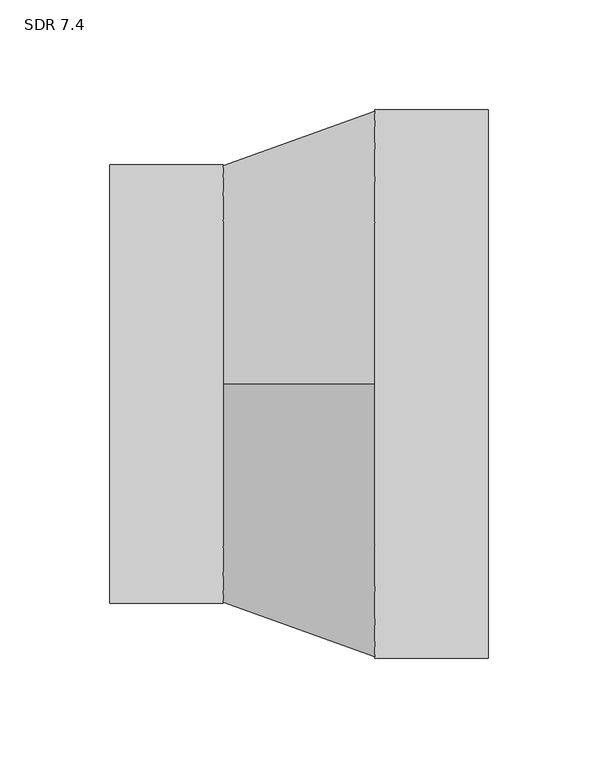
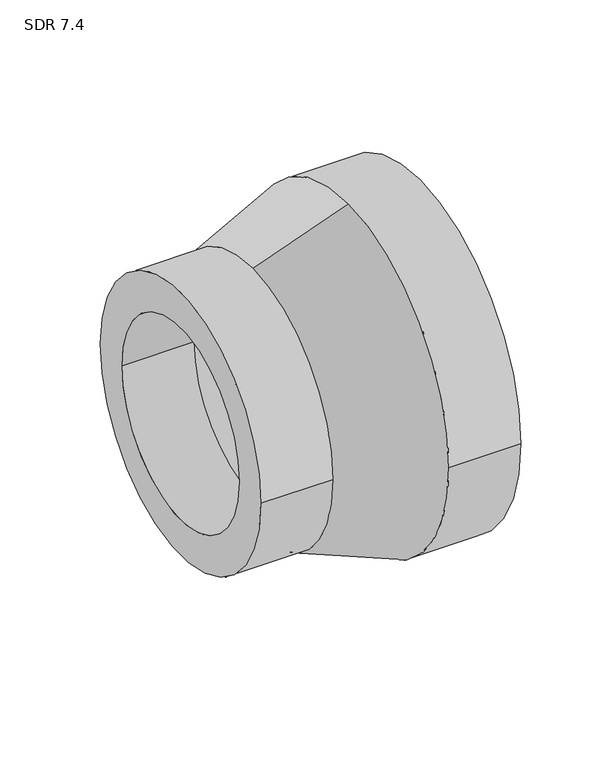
"""IFC4 building model written with IfcOpenShell, lengths in millimetres: pipe fitting geometry, Aquatherm - Reducing Coupling Combined - METRIC : SDR 7.4."""

import ifcopenshell
import ifcopenshell.guid

model = None  # the IFC model being written
_history = None  # IfcOwnerHistory: only IFC2X3 demands one
_inside = {}  # id of a spatial element -> (the spatial element, [elements in it])
_under = {}  # id of a project, library or spatial element -> (it, [spatial elements below it])
_declared = {}  # id of a project -> (the project, [libraries it declares])
_typed = {}  # id of a type object -> (the type object, [elements of that type])
_made_of = {}  # id of a material, layer set ... -> (it, [elements and type objects made of it])


def new_model(schema):
    """Start an empty IFC model of exactly this schema.

    Asked for "IFC4X3", IfcOpenShell would pick the latest addendum, in which some entities
    have other attributes; the version numbers below select the first issue.
    IFC2X3 requires an IfcOwnerHistory on every rooted entity: one is made here for all.
    """
    global model, _history
    if schema == "IFC4X3":
        model = ifcopenshell.file(schema_version=(4, 3, 0, 0))
    else:
        model = ifcopenshell.file(schema=schema)
    _inside.clear()
    _under.clear()
    _declared.clear()
    _typed.clear()
    _made_of.clear()
    _history = None
    if model.schema == "IFC2X3":
        org = make("IfcOrganization", Name="unknown")
        user = make(
            "IfcPersonAndOrganization",
            ThePerson=make("IfcPerson", FamilyName="unknown"),
            TheOrganization=org,
        )
        app = make(
            "IfcApplication",
            ApplicationDeveloper=org,
            Version="unknown",
            ApplicationFullName="unknown",
            ApplicationIdentifier="unknown",
        )
        _history = make(
            "IfcOwnerHistory",
            OwningUser=user,
            OwningApplication=app,
            ChangeAction="ADDED",
            CreationDate=0,
        )
    return model


def make(cls, **values):
    """One entity of the class cls with the attributes given. An attribute that is None is left unset."""
    return model.create_entity(
        cls, **{name: value for name, value in values.items() if value is not None}
    )


def rooted(cls, **values):
    """An entity with a GlobalId (a new one), such as an element, a storey or a relation."""
    return make(cls, GlobalId=ifcopenshell.guid.new(), OwnerHistory=_history, **values)


def si_unit(unit_type, name, prefix=None):
    """IfcSIUnit, for example si_unit("LENGTHUNIT", "METRE", prefix="MILLI")."""
    return make("IfcSIUnit", UnitType=unit_type, Prefix=prefix, Name=name)


def assignment(units):
    """IfcUnitAssignment: the units of a project."""
    return None if units is None else make("IfcUnitAssignment", Units=units)


def point(xyz):
    """IfcCartesianPoint."""
    return None if xyz is None else make("IfcCartesianPoint", Coordinates=xyz)


def direction(xyz):
    """IfcDirection."""
    return None if xyz is None else make("IfcDirection", DirectionRatios=xyz)


def frame(location, z_axis=None, x_axis=None):
    """IfcAxis2Placement3D, a coordinate frame: its origin and axes. An axis left out is left unset."""
    return make(
        "IfcAxis2Placement3D",
        Location=point(location),
        Axis=direction(z_axis),
        RefDirection=direction(x_axis),
    )


def origin():
    """The frame at (0, 0, 0) with its axes left unset."""
    return frame((0.0, 0.0, 0.0))


def place(relative_to, where):
    """IfcLocalPlacement: puts the frame where relative to a parent placement (None: the world)."""
    return make(
        "IfcLocalPlacement", PlacementRelTo=relative_to, RelativePlacement=where
    )


def context(
    kind, dimensions, precision=None, world=None, true_north=None, identifier=None
):
    """IfcGeometricRepresentationContext, for example the 3D "Model" context."""
    return make(
        "IfcGeometricRepresentationContext",
        ContextIdentifier=identifier,
        ContextType=kind,
        CoordinateSpaceDimension=dimensions,
        Precision=precision,
        WorldCoordinateSystem=world,
        TrueNorth=true_north,
    )


def project(units=None, contexts=None):
    """IfcProject with its units and contexts."""
    return rooted(
        "IfcProject",
        Name="project",
        RepresentationContexts=contexts,
        UnitsInContext=assignment(units),
    )


def spatial(cls, under=None, at=None, **own):
    """A site, building, storey or space (cls), placed at a placement, below another one or the project."""
    s = rooted(cls, ObjectPlacement=at, **own)
    if under is not None:
        _under.setdefault(under.id(), (under, []))[1].append(s)
    return s


def polyline(points):
    """IfcPolyline through the points."""
    return make("IfcPolyline", Points=[point(p) for p in points])


def circle_curve(where, radius):
    """IfcCircle in the frame where."""
    return make("IfcCircle", Position=where, Radius=radius)


def shape(context_of_items, identifier, shape_type, items):
    """IfcShapeRepresentation: the items that make up one representation, for example the "Body"."""
    return make(
        "IfcShapeRepresentation",
        ContextOfItems=context_of_items,
        RepresentationIdentifier=identifier,
        RepresentationType=shape_type,
        Items=items,
    )


def source(mapping_origin, context_of_items, identifier, shape_type, items):
    """IfcRepresentationMap: a shape defined once, which mapped items show again and again."""
    return make(
        "IfcRepresentationMap",
        MappingOrigin=mapping_origin,
        MappedRepresentation=shape(context_of_items, identifier, shape_type, items),
    )


def transform(
    local_origin,
    x_axis=None,
    y_axis=None,
    z_axis=None,
    scale=None,
    scale2=None,
    scale3=None,
    uniform=True,
):
    """IfcCartesianTransformationOperator3D, or its non-uniform kind. x_axis, y_axis, z_axis: its Axis1, 2, 3."""
    if uniform:
        return make(
            "IfcCartesianTransformationOperator3D",
            Axis1=direction(x_axis),
            Axis2=direction(y_axis),
            LocalOrigin=point(local_origin),
            Scale=scale,
            Axis3=direction(z_axis),
        )
    return make(
        "IfcCartesianTransformationOperator3DnonUniform",
        Axis1=direction(x_axis),
        Axis2=direction(y_axis),
        LocalOrigin=point(local_origin),
        Scale=scale,
        Axis3=direction(z_axis),
        Scale2=scale2,
        Scale3=scale3,
    )


def mapped(mapping_source, mapping_target):
    """IfcMappedItem: shows the shape of a source again, moved by a transform."""
    return make(
        "IfcMappedItem", MappingSource=mapping_source, MappingTarget=mapping_target
    )


def made_of(thing, what):
    """Note that an element or type object is made of a material, layer set ...; save() writes the relation."""
    if what is not None:
        _made_of.setdefault(what.id(), (what, []))[1].append(thing)
    return thing


def element(
    cls,
    number,
    at=None,
    inside=None,
    cuts=None,
    type_object=None,
    material=None,
    context=None,
    identifier="Body",
    shape_type=None,
    held_by="IfcProductDefinitionShape",
    body=None,
    shapes=None,
    **own,
):
    """One element of the class cls, such as IfcWall. Its Tag is "e" and its number.

    at: its placement. inside: the storey or other place that contains it. cuts: it is an
    opening in that element (IfcRelVoidsElement). A single representation is given by context,
    identifier, shape_type and body (its items); several are given by shapes. held_by: the class
    of the entity that holds the representations. save() writes the other relations.
    """
    e = rooted(cls, Tag="e%d" % number, ObjectPlacement=at, **own)
    if body is not None:
        shapes = [shape(context, identifier, shape_type, body)]
    if shapes is not None:
        e.Representation = make(held_by, Representations=shapes)
    if inside is not None:
        _inside.setdefault(inside.id(), (inside, []))[1].append(e)
    if cuts is not None:
        rooted(
            "IfcRelVoidsElement", RelatingBuildingElement=cuts, RelatedOpeningElement=e
        )
    if type_object is not None:
        _typed.setdefault(type_object.id(), (type_object, []))[1].append(e)
    return made_of(e, material)


def aggregate(whole, parts):
    """IfcRelAggregates: a whole, such as a stair, and the parts it consists of."""
    return rooted("IfcRelAggregates", RelatingObject=whole, RelatedObjects=parts)


def save(model, path):
    """Write the relations noted so far, then the file.

    IfcRelAggregates (storeys below a building ...), IfcRelContainedInSpatialStructure (elements
    in a storey), IfcRelDefinesByType, IfcRelAssociatesMaterial and IfcRelDeclares: one each for
    every whole, place, type object, material and project.
    """
    for whole, parts in _under.values():
        aggregate(whole, parts)
    for where, things in _inside.values():
        rooted(
            "IfcRelContainedInSpatialStructure",
            RelatedElements=things,
            RelatingStructure=where,
        )
    for kind, things in _typed.values():
        rooted("IfcRelDefinesByType", RelatedObjects=things, RelatingType=kind)
    for what, things in _made_of.values():
        rooted("IfcRelAssociatesMaterial", RelatedObjects=things, RelatingMaterial=what)
    for by, libraries in _declared.values():
        rooted("IfcRelDeclares", RelatingContext=by, RelatedDefinitions=libraries)
    model.write(path)


def plane_surface(at):
    """IfcPlane: the flat surface through the origin of the frame at, square to its z axis."""
    return make("IfcPlane", Position=at)


def cylinder_surface(at, radius):
    """IfcCylindricalSurface: all points at the distance radius from the z axis of the frame at."""
    return make("IfcCylindricalSurface", Position=at, Radius=radius)


def revolved_surface(curve, axis_point, axis_direction):
    """IfcSurfaceOfRevolution: the curve turned about the line through axis_point along axis_direction."""
    return make(
        "IfcSurfaceOfRevolution",
        SweptCurve=make("IfcArbitraryOpenProfileDef", ProfileType="CURVE", Curve=curve),
        AxisPosition=make("IfcAxis1Placement", Location=point(axis_point), Axis=direction(axis_direction)),
    )


def advanced_brep(points, edges, surfaces, faces):
    """IfcAdvancedBrep: a solid bounded by faces that lie on surfaces and meet in shared edges.

    An edge is (start, end): straight between two places in points (the first is 0);
    or (start, end, curve); or (start, end, curve, False) where it runs against its curve.
    A face is (place in surfaces, loops), or (place, loops, False) where it looks against
    its surface's normal. A loop lists edges by number (the first is 1), with a minus sign
    where the edge is run from its end to its start. The first loop is the outer one.
    """
    corners = [point(p) for p in points]
    vertices = [make("IfcVertexPoint", VertexGeometry=c) for c in corners]
    made = []
    for start, end, *more in edges:
        made.append(
            make(
                "IfcEdgeCurve",
                EdgeStart=vertices[start],
                EdgeEnd=vertices[end],
                EdgeGeometry=more[0] if more else make("IfcPolyline", Points=[corners[start], corners[end]]),
                SameSense=more[1] if len(more) > 1 else True,
            )
        )
    hull = []
    for where, loops, *sense in faces:
        bounds = []
        for j, loop in enumerate(loops):
            ring = [make("IfcOrientedEdge", EdgeElement=made[abs(k) - 1], Orientation=k > 0) for k in loop]
            bounds.append(
                make(
                    "IfcFaceOuterBound" if j == 0 else "IfcFaceBound",
                    Bound=make("IfcEdgeLoop", EdgeList=ring),
                    Orientation=True,
                )
            )
        hull.append(make("IfcAdvancedFace", Bounds=bounds, FaceSurface=surfaces[where], SameSense=sense[0] if sense else True))
    return make("IfcAdvancedBrep", Outer=make("IfcClosedShell", CfsFaces=hull))


def sdr_7_4_751098ce(model_context):
    return source(origin(), model_context, "Body", "AdvancedBrep", [
        advanced_brep(
        [(-86.233, -99.949, 0.0), (-86.233, 99.949, 0.0), (-86.233, -72.9357568, 0.0), (-86.233, 72.9357568, 0.0), (-34.4932, 72.9357568, 0.0), (-34.4932, 0.0, 72.9357568), (-34.4932, -72.9357568, 0.0), (-34.4932, 0.0, -72.9357568), (-34.4932, 99.949, 0.0), (-34.4932, 0.0, -99.949), (-34.4932, -99.949, 0.0), (-34.4932, 0.0, 99.949), (86.233, -124.968, 0.0), (86.233, 124.968, 0.0), (86.233, -91.1928649, 0.0), (86.233, 91.1928649, 0.0), (34.4932, -124.968, 0.0), (34.4932, 0.0, -124.968), (34.4932, 124.968, 0.0), (34.4932, 0.0, 124.968), (34.4932, -91.1928649, 0.0), (34.4932, 0.0, 91.1928649), (34.4932, 91.1928649, 0.0), (34.4932, 0.0, -91.1928649)],
        [
            (0, 1, circle_curve(frame((-86.233, 0.0, 0.0), z_axis=(-1.0, 0.0, 0.0), x_axis=(0.0, 1.0, 0.0)), 99.949)),
            (1, 0, circle_curve(frame((-86.233, 0.0, 0.0), z_axis=(-1.0, 0.0, 0.0), x_axis=(0.0, 1.0, 0.0)), 99.949)),
            (2, 3, circle_curve(frame((-86.233, 0.0, 0.0), z_axis=(1.0, 0.0, 0.0), x_axis=(0.0, 1.0, 0.0)), 72.9357568)),
            (3, 2, circle_curve(frame((-86.233, 0.0, 0.0), z_axis=(1.0, 0.0, 0.0), x_axis=(0.0, 1.0, 0.0)), 72.9357568)),
            (3, 4),
            (4, 5, circle_curve(frame((-34.4932, 0.0, 0.0), z_axis=(1.0, 0.0, 0.0), x_axis=(0.0, 1.0, 0.0)), 72.9357568)),
            (5, 6, circle_curve(frame((-34.4932, 0.0, 0.0), z_axis=(1.0, 0.0, 0.0), x_axis=(0.0, 1.0, 0.0)), 72.9357568)),
            (6, 2),
            (6, 7, circle_curve(frame((-34.4932, 0.0, 0.0), z_axis=(1.0, 0.0, 0.0), x_axis=(0.0, 1.0, 0.0)), 72.9357568)),
            (7, 4, circle_curve(frame((-34.4932, 0.0, 0.0), z_axis=(1.0, 0.0, 0.0), x_axis=(0.0, 1.0, 0.0)), 72.9357568)),
            (1, 8),
            (8, 9, circle_curve(frame((-34.4932, 0.0, 0.0), z_axis=(-1.0, 0.0, 0.0), x_axis=(0.0, 1.0, 0.0)), 99.949)),
            (9, 10, circle_curve(frame((-34.4932, 0.0, 0.0), z_axis=(-1.0, 0.0, 0.0), x_axis=(0.0, 1.0, 0.0)), 99.949)),
            (10, 0),
            (10, 11, circle_curve(frame((-34.4932, 0.0, 0.0), z_axis=(-1.0, 0.0, 0.0), x_axis=(0.0, 1.0, 0.0)), 99.949)),
            (11, 8, circle_curve(frame((-34.4932, 0.0, 0.0), z_axis=(-1.0, 0.0, 0.0), x_axis=(0.0, 1.0, 0.0)), 99.949)),
            (12, 13, circle_curve(frame((86.233, 0.0, 0.0), z_axis=(1.0, 0.0, 0.0), x_axis=(0.0, 1.0, 0.0)), 124.968)),
            (13, 12, circle_curve(frame((86.233, 0.0, 0.0), z_axis=(1.0, 0.0, 0.0), x_axis=(0.0, 1.0, 0.0)), 124.968)),
            (14, 15, circle_curve(frame((86.233, 0.0, 0.0), z_axis=(-1.0, 0.0, 0.0), x_axis=(0.0, 1.0, 0.0)), 91.1928649)),
            (15, 14, circle_curve(frame((86.233, 0.0, 0.0), z_axis=(-1.0, 0.0, 0.0), x_axis=(0.0, 1.0, 0.0)), 91.1928649)),
            (12, 16),
            (16, 17, circle_curve(frame((34.4932, 0.0, 0.0), z_axis=(1.0, 0.0, 0.0), x_axis=(0.0, 1.0, 0.0)), 124.968)),
            (17, 18, circle_curve(frame((34.4932, 0.0, 0.0), z_axis=(1.0, 0.0, 0.0), x_axis=(0.0, 1.0, 0.0)), 124.968)),
            (18, 13),
            (18, 19, circle_curve(frame((34.4932, 0.0, 0.0), z_axis=(1.0, 0.0, 0.0), x_axis=(0.0, 1.0, 0.0)), 124.968)),
            (19, 16, circle_curve(frame((34.4932, 0.0, 0.0), z_axis=(1.0, 0.0, 0.0), x_axis=(0.0, 1.0, 0.0)), 124.968)),
            (14, 20),
            (20, 21, circle_curve(frame((34.4932, 0.0, 0.0), z_axis=(-1.0, 0.0, 0.0), x_axis=(0.0, 1.0, 0.0)), 91.1928649)),
            (21, 22, circle_curve(frame((34.4932, 0.0, 0.0), z_axis=(-1.0, 0.0, 0.0), x_axis=(0.0, 1.0, 0.0)), 91.1928649)),
            (22, 15),
            (22, 23, circle_curve(frame((34.4932, 0.0, 0.0), z_axis=(-1.0, 0.0, 0.0), x_axis=(0.0, 1.0, 0.0)), 91.1928649)),
            (23, 20, circle_curve(frame((34.4932, 0.0, 0.0), z_axis=(-1.0, 0.0, 0.0), x_axis=(0.0, 1.0, 0.0)), 91.1928649)),
            (11, 19),
            (17, 9),
            (21, 5),
            (7, 23),
        ],
        [
            plane_surface(frame((-86.233, 72.9357568, 0.0), z_axis=(-1.0, 0.0, 0.0), x_axis=(0.0, 0.0, 1.0))),
            revolved_surface(polyline([(-86.233, 72.9357568, 0.0), (-34.4932, 72.9357568, 0.0)]), (-86.233, 0.0, 0.0), (-1.0, 0.0, 0.0)),
            cylinder_surface(frame((0.0, 0.0, 0.0), z_axis=(1.0, 0.0, 0.0), x_axis=(0.0, 1.0, 0.0)), 99.949),
            plane_surface(frame((86.233, 124.968, 0.0), z_axis=(1.0, 0.0, 0.0), x_axis=(0.0, 0.0, 1.0))),
            cylinder_surface(frame((34.4932, 0.0, 0.0), z_axis=(1.0, 0.0, 0.0), x_axis=(0.0, 1.0, 0.0)), 124.968),
            revolved_surface(polyline([(34.4932, 91.1928649, 0.0), (86.233, 91.1928649, 0.0)]), (0.0, 0.0, 0.0), (-1.0, 0.0, 0.0)),
            revolved_surface(polyline([(34.4932, 0.0, 124.968), (-34.4932, 0.0, 99.949)]), (-661.4925384, 0.0, 0.0), (-1.0, 0.0, 0.0)),
            revolved_surface(polyline([(-34.4932, 0.0, 72.9357568), (34.4932, 0.0, 91.1928649)]), (-661.4925384, 0.0, 0.0), (-1.0, 0.0, 0.0)),
        ],
        [
            (0, [[1, 2], [3, 4]]),
            (1, [[-4, 5, 6, 7, 8]]),
            (1, [[-3, -8, 9, 10, -5]]),
            (2, [[-2, 11, 12, 13, 14]]),
            (2, [[-1, -14, 15, 16, -11]]),
            (3, [[17, 18], [19, 20]]),
            (4, [[-17, 21, 22, 23, 24]]),
            (4, [[-18, -24, 25, 26, -21]]),
            (5, [[-19, 27, 28, 29, 30]]),
            (5, [[-20, -30, 31, 32, -27]]),
            (6, [[33, -25, -23, 34, -12, -16]]),
            (6, [[-33, -15, -13, -34, -22, -26]]),
            (7, [[35, -6, -10, 36, -31, -29]]),
            (7, [[-35, -28, -32, -36, -9, -7]]),
        ],
    ),
    ])


if __name__ == "__main__":
    model = new_model("IFC4")
    model_context = context("Model", 3, world=origin())
    ifc_project = project(units=[si_unit("LENGTHUNIT", "METRE", prefix="MILLI")], contexts=[model_context])
    site = spatial("IfcSite", under=ifc_project)
    building = spatial("IfcBuilding", under=site)
    placement = place(None, origin())
    sdr_7_4_shape = sdr_7_4_751098ce(model_context)
    element("IfcPipeFitting", 1, ObjectType="Aquatherm - Reducing Coupling Combined - METRIC : SDR 7.4", at=placement, inside=building, context=model_context, shape_type="MappedRepresentation", body=[
        mapped(sdr_7_4_shape, transform((0.0, 0.0, 0.0), x_axis=(1.0, 0.0, 0.0), y_axis=(0.0, 1.0, 0.0), z_axis=(0.0, 0.0, 1.0))),
    ])
    save(model, "model.ifc")
